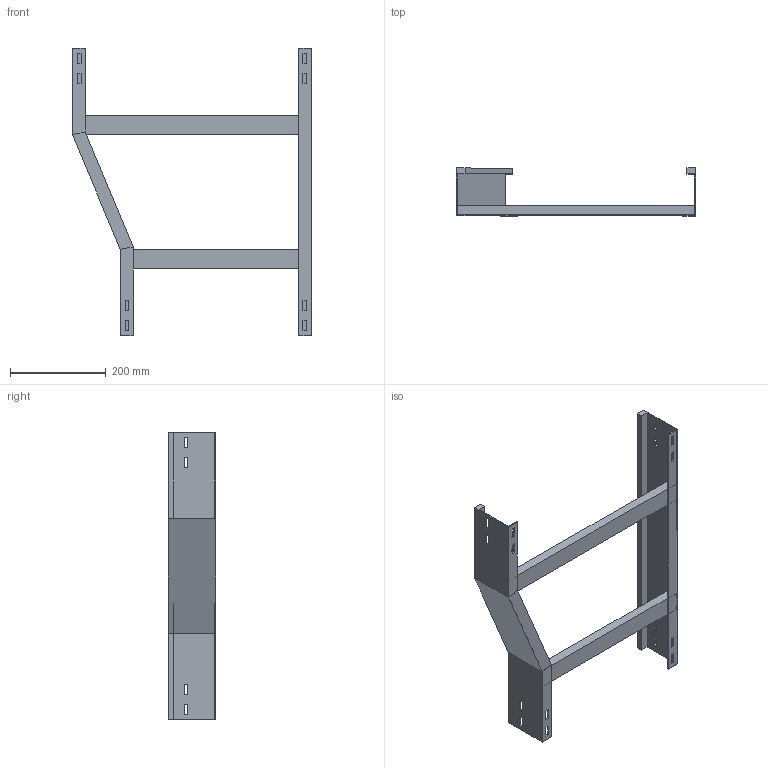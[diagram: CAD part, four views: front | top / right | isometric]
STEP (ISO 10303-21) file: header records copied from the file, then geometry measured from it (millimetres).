
FILE_DESCRIPTION (( 'STEP AP214' ), '1' );
FILE_NAME ('B2X21B4D500XX.step', '2025-09-02T17:16:55', ( '' ), ( '' ), 'SwSTEP 2.0', 'SolidWorks 2023', '' );
FILE_SCHEMA (( 'AUTOMOTIVE_DESIGN' ));
Length unit declared in the file: millimetre
Products named in the file (5): TRAVERSINO_400; SPONDA DRITTA_H100; SPONDA RID. DX 500-400_H100; B2X21B4D500XX; TRAVERSINO_500
Assembly tree (4 placements, depth 2):
  B2X21B4D500XX
    SPONDA RID. DX 500-400_H100
    TRAVERSINO_400
    TRAVERSINO_500
    SPONDA DRITTA_H100
Bounding box: 500 x 100 x 600 mm (x, y, z)
Volume: 1256832 mm3; surface area: 458788 mm2
Topology: 4 solids, 4 shells, 112 faces, 296 edges, 192 vertices
Faces by surface type: plane 112
Entity records: 3590 total; most frequent: CARTESIAN_POINT 607, ORIENTED_EDGE 592, DIRECTION 534, LINE 296, EDGE_CURVE 296, VECTOR 296, VERTEX_POINT 192, EDGE_LOOP 144
